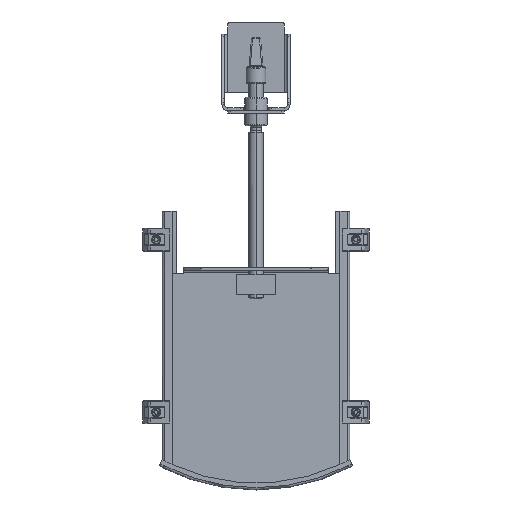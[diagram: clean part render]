
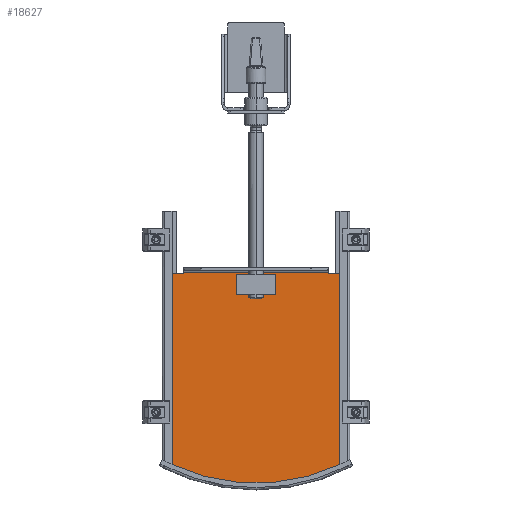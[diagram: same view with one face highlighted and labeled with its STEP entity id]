
A CAD part, top view. The second image highlights one B-rep face of the part: STEP entity #18627.
In plain terms, the highlighted planar face has unit normal (0, 0, 1).
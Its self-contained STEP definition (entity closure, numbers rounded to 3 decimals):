
#567 = FACE_OUTER_BOUND ( 'NONE', #11615, .T. ) ;
#613 = CARTESIAN_POINT ( 'NONE',  ( 148.172, 370., 33. ) ) ;
#1088 = DIRECTION ( 'NONE',  ( 1., 0., 0. ) ) ;
#1113 = DIRECTION ( 'NONE',  ( 0., 0., -1. ) ) ;
#1760 = VERTEX_POINT ( 'NONE', #4091 ) ;
#1841 = ORIENTED_EDGE ( 'NONE', *, *, #29954, .F. ) ;
#1950 = CARTESIAN_POINT ( 'NONE',  ( -34., 367.5, 33. ) ) ;
#2315 = DIRECTION ( 'NONE',  ( 1., 0., 0. ) ) ;
#2410 = EDGE_CURVE ( 'NONE', #4497, #5141, #18776, .T. ) ;
#3156 = CARTESIAN_POINT ( 'NONE',  ( 34., 367.5, 33. ) ) ;
#3208 = EDGE_CURVE ( 'NONE', #18899, #4497, #21795, .T. ) ;
#3303 = ORIENTED_EDGE ( 'NONE', *, *, #16655, .T. ) ;
#3674 = VERTEX_POINT ( 'NONE', #22606 ) ;
#3777 = EDGE_CURVE ( 'NONE', #24552, #31195, #17394, .T. ) ;
#4091 = CARTESIAN_POINT ( 'NONE',  ( -147.995, 370., 33. ) ) ;
#4175 = CARTESIAN_POINT ( 'NONE',  ( -147.995, 32.829, 33. ) ) ;
#4249 = ORIENTED_EDGE ( 'NONE', *, *, #15725, .F. ) ;
#4497 = VERTEX_POINT ( 'NONE', #12027 ) ;
#4635 = LINE ( 'NONE', #33846, #14371 ) ;
#5141 = VERTEX_POINT ( 'NONE', #6105 ) ;
#5500 = CIRCLE ( 'NONE', #19877, 2. ) ;
#6004 = VECTOR ( 'NONE', #12763, 1000. ) ;
#6105 = CARTESIAN_POINT ( 'NONE',  ( 34., 332.5, 33. ) ) ;
#6950 = CARTESIAN_POINT ( 'NONE',  ( -34., 367.5, 33. ) ) ;
#7308 = EDGE_CURVE ( 'NONE', #11405, #1760, #19947, .T. ) ;
#8231 = CARTESIAN_POINT ( 'NONE',  ( -34., 332.5, 33. ) ) ;
#8252 = ORIENTED_EDGE ( 'NONE', *, *, #2410, .F. ) ;
#8337 = CARTESIAN_POINT ( 'NONE',  ( 147.995, 370., 33. ) ) ;
#8379 = DIRECTION ( 'NONE',  ( 0., 0., 1. ) ) ;
#8598 = LINE ( 'NONE', #613, #10118 ) ;
#8612 = AXIS2_PLACEMENT_3D ( 'NONE', #34265, #31472, #2315 ) ;
#9396 = VECTOR ( 'NONE', #16898, 1000. ) ;
#9618 = LINE ( 'NONE', #33933, #6004 ) ;
#10118 = VECTOR ( 'NONE', #27025, 1000. ) ;
#10660 = VERTEX_POINT ( 'NONE', #18998 ) ;
#11405 = VERTEX_POINT ( 'NONE', #4175 ) ;
#11462 = VERTEX_POINT ( 'NONE', #17824 ) ;
#11534 = PLANE ( 'NONE',  #18417 ) ;
#11615 = EDGE_LOOP ( 'NONE', ( #26356, #19648, #24316, #33756, #3303, #23153, #30019, #31144 ) ) ;
#12027 = CARTESIAN_POINT ( 'NONE',  ( -34., 332.5, 33. ) ) ;
#12344 = CARTESIAN_POINT ( 'NONE',  ( -129., 370., 33. ) ) ;
#12560 = LINE ( 'NONE', #1950, #31483 ) ;
#12763 = DIRECTION ( 'NONE',  ( 0., 1., 0. ) ) ;
#13136 = EDGE_LOOP ( 'NONE', ( #8252, #27601, #4249, #1841 ) ) ;
#14371 = VECTOR ( 'NONE', #20758, 1000. ) ;
#14480 = DIRECTION ( 'NONE',  ( 0., -1., 0. ) ) ;
#15596 = EDGE_CURVE ( 'NONE', #3674, #10660, #4635, .T. ) ;
#15725 = EDGE_CURVE ( 'NONE', #27293, #18899, #12560, .T. ) ;
#16227 = EDGE_CURVE ( 'NONE', #11462, #10660, #5500, .T. ) ;
#16415 = VECTOR ( 'NONE', #17191, 1000. ) ;
#16655 = EDGE_CURVE ( 'NONE', #3674, #33183, #19342, .T. ) ;
#16871 = CARTESIAN_POINT ( 'NONE',  ( -155., 38.425, 33. ) ) ;
#16898 = DIRECTION ( 'NONE',  ( 1., 0., 0. ) ) ;
#17049 = DIRECTION ( 'NONE',  ( 1., 0., 0. ) ) ;
#17191 = DIRECTION ( 'NONE',  ( 0., 1., 0. ) ) ;
#17394 = LINE ( 'NONE', #17557, #27321 ) ;
#17557 = CARTESIAN_POINT ( 'NONE',  ( 147.995, 38.425, 33. ) ) ;
#17578 = CARTESIAN_POINT ( 'NONE',  ( 147.995, 32.829, 33. ) ) ;
#17692 = CARTESIAN_POINT ( 'NONE',  ( -147.995, 38.425, 33. ) ) ;
#17824 = CARTESIAN_POINT ( 'NONE',  ( 129., 370., 33. ) ) ;
#18417 = AXIS2_PLACEMENT_3D ( 'NONE', #16871, #8379, #1088 ) ;
#18627 = ADVANCED_FACE ( 'NONE', ( #567, #29938 ), #11534, .T. ) ;
#18776 = LINE ( 'NONE', #8231, #9396 ) ;
#18899 = VERTEX_POINT ( 'NONE', #6950 ) ;
#18998 = CARTESIAN_POINT ( 'NONE',  ( 127., 372., 33. ) ) ;
#19342 = CIRCLE ( 'NONE', #32186, 2. ) ;
#19648 = ORIENTED_EDGE ( 'NONE', *, *, #25146, .T. ) ;
#19725 = VECTOR ( 'NONE', #27614, 1000. ) ;
#19794 = CARTESIAN_POINT ( 'NONE',  ( -129., 372., 33. ) ) ;
#19877 = AXIS2_PLACEMENT_3D ( 'NONE', #24870, #30288, #17049 ) ;
#19947 = LINE ( 'NONE', #17692, #16415 ) ;
#20758 = DIRECTION ( 'NONE',  ( 1., 0., 0. ) ) ;
#21628 = DIRECTION ( 'NONE',  ( 0., -1., 0. ) ) ;
#21795 = LINE ( 'NONE', #24233, #26701 ) ;
#21871 = LINE ( 'NONE', #22377, #19725 ) ;
#22377 = CARTESIAN_POINT ( 'NONE',  ( -148.172, 370., 33. ) ) ;
#22606 = CARTESIAN_POINT ( 'NONE',  ( -127., 372., 33. ) ) ;
#23153 = ORIENTED_EDGE ( 'NONE', *, *, #33154, .T. ) ;
#24233 = CARTESIAN_POINT ( 'NONE',  ( -34., 367.5, 33. ) ) ;
#24316 = ORIENTED_EDGE ( 'NONE', *, *, #16227, .T. ) ;
#24552 = VERTEX_POINT ( 'NONE', #8337 ) ;
#24870 = CARTESIAN_POINT ( 'NONE',  ( 129., 372., 33. ) ) ;
#25146 = EDGE_CURVE ( 'NONE', #24552, #11462, #8598, .T. ) ;
#25208 = DIRECTION ( 'NONE',  ( 1., 0., 0. ) ) ;
#25796 = CIRCLE ( 'NONE', #8612, 350. ) ;
#26356 = ORIENTED_EDGE ( 'NONE', *, *, #3777, .F. ) ;
#26701 = VECTOR ( 'NONE', #21628, 1000. ) ;
#27025 = DIRECTION ( 'NONE',  ( -1., 0., 0. ) ) ;
#27293 = VERTEX_POINT ( 'NONE', #3156 ) ;
#27321 = VECTOR ( 'NONE', #14480, 1000. ) ;
#27601 = ORIENTED_EDGE ( 'NONE', *, *, #3208, .F. ) ;
#27614 = DIRECTION ( 'NONE',  ( -1., 0., 0. ) ) ;
#28333 = EDGE_CURVE ( 'NONE', #11405, #31195, #25796, .T. ) ;
#29938 = FACE_BOUND ( 'NONE', #13136, .T. ) ;
#29954 = EDGE_CURVE ( 'NONE', #5141, #27293, #9618, .T. ) ;
#30019 = ORIENTED_EDGE ( 'NONE', *, *, #7308, .F. ) ;
#30288 = DIRECTION ( 'NONE',  ( 0., 0., -1. ) ) ;
#31144 = ORIENTED_EDGE ( 'NONE', *, *, #28333, .T. ) ;
#31195 = VERTEX_POINT ( 'NONE', #17578 ) ;
#31472 = DIRECTION ( 'NONE',  ( 0., 0., 1. ) ) ;
#31483 = VECTOR ( 'NONE', #33560, 1000. ) ;
#32186 = AXIS2_PLACEMENT_3D ( 'NONE', #19794, #1113, #25208 ) ;
#33154 = EDGE_CURVE ( 'NONE', #33183, #1760, #21871, .T. ) ;
#33183 = VERTEX_POINT ( 'NONE', #12344 ) ;
#33560 = DIRECTION ( 'NONE',  ( -1., 0., 0. ) ) ;
#33756 = ORIENTED_EDGE ( 'NONE', *, *, #15596, .F. ) ;
#33846 = CARTESIAN_POINT ( 'NONE',  ( -155., 372., 33. ) ) ;
#33933 = CARTESIAN_POINT ( 'NONE',  ( 34., 367.5, 33. ) ) ;
#34265 = CARTESIAN_POINT ( 'NONE',  ( 0., 350., 33. ) ) ;
